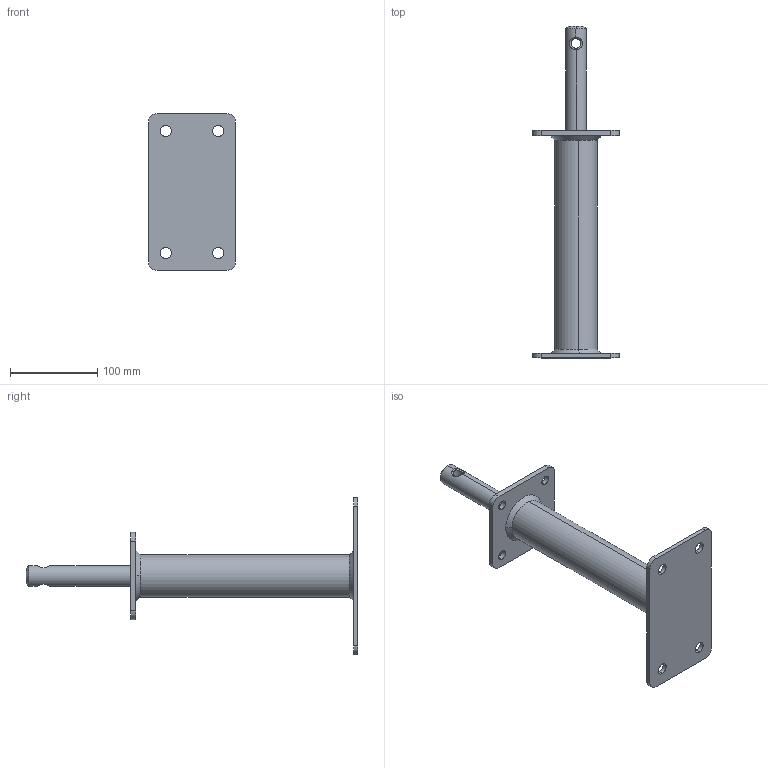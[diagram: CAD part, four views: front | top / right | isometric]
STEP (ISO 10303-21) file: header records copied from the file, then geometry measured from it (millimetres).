
FILE_DESCRIPTION (( 'STEP AP203' ), '1' );
FILE_NAME ('19823250.STEP', '2021-04-19T16:58:07', ( '' ), ( '' ), 'SwSTEP 2.0', 'SolidWorks 2013', '' );
FILE_SCHEMA (( 'CONFIG_CONTROL_DESIGN' ));
Length unit declared in the file: millimetre
Products named in the file (6): 100x100x6-4xd11-1xd21; Schweissnaht-d48mm; 180x100x5-4xd13-abgerundet; Standrohr-48,3x250x3,25; 24x120; 19823250
Assembly tree (6 placements, depth 2):
  19823250
    180x100x5-4xd13-abgerundet
    Schweissnaht-d48mm  x2
    Standrohr-48,3x250x3,25
    100x100x6-4xd11-1xd21
    24x120
Bounding box: 100 x 381 x 180 mm (x, y, z)
Volume: 315155.2 mm3; surface area: 148012.4 mm2
Topology: 6 solids, 6 shells, 64 faces, 160 edges, 104 vertices
Faces by surface type: cylinder 36, plane 18, bspline 8, cone 2
Entity records: 6350 total; most frequent: CARTESIAN_POINT 4228, DIRECTION 314, ORIENTED_EDGE 300, EDGE_CURVE 150, AXIS2_PLACEMENT_3D 126, VERTEX_POINT 98, EDGE_LOOP 78, CIRCLE 64
